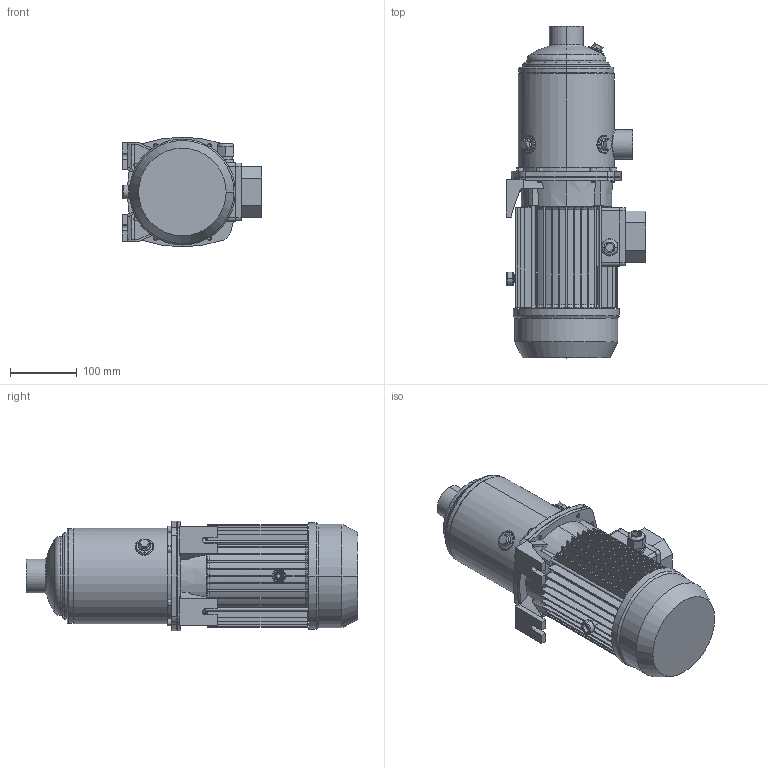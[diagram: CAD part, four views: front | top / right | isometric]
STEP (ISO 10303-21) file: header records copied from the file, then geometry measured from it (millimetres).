
FILE_DESCRIPTION((''),'2;1');
FILE_NAME('MATRIX_10-5T_2_2_IE3_ASM','2017-09-06T',('rosa'),('"Ebara Pumps Europe +39.444.706811"'),'PRO/ENGINEER BY PARAMETRIC TECHNOLOGY CORPORATION, 2012130','PRO/ENGINEER BY PARAMETRIC TECHNOLOGY CORPORATION, 2012130','');
FILE_SCHEMA(('AUTOMOTIVE_DESIGN { 1 0 10303 214 1 1 1 1 }'));
Length unit declared in the file: millimetre
Products named in the file (5): CORPO_POMPA_MATRIX_10-5; SUPPORTO_MATRIX_MEC_80; MEC_80X130_IE3; 72229; MATRIX_10-5T_2_2_IE3_ASM
Assembly tree (4 placements, depth 2):
  MATRIX_10-5T_2_2_IE3_ASM
    CORPO_POMPA_MATRIX_10-5
    SUPPORTO_MATRIX_MEC_80
    MEC_80X130_IE3
    72229
Bounding box: 209 x 498.8 x 165 mm (x, y, z)
Volume: 5865030 mm3; surface area: 594442.6 mm2
Topology: 4 solids, 4 shells, 718 faces, 1729 edges, 1067 vertices
Faces by surface type: plane 377, cylinder 186, cone 102, torus 37, bspline 14, sphere 2
Entity records: 28131 total; most frequent: CARTESIAN_POINT 5414, DIRECTION 3658, ORIENTED_EDGE 3458, EDGE_CURVE 1729, PRESENTATION_STYLE_ASSIGNMENT 1682, STYLED_ITEM 1682, CURVE_STYLE 1679, AXIS2_PLACEMENT_3D 1400
